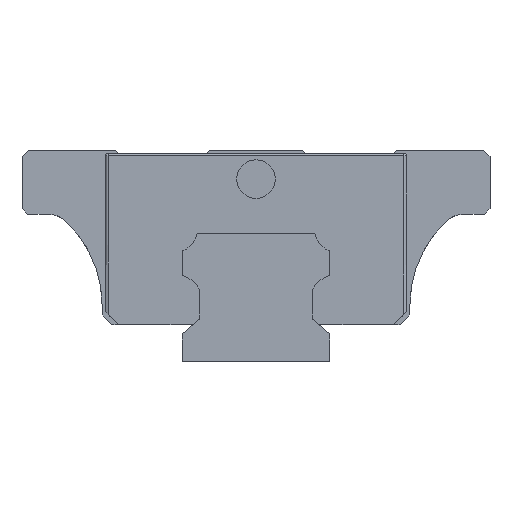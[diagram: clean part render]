
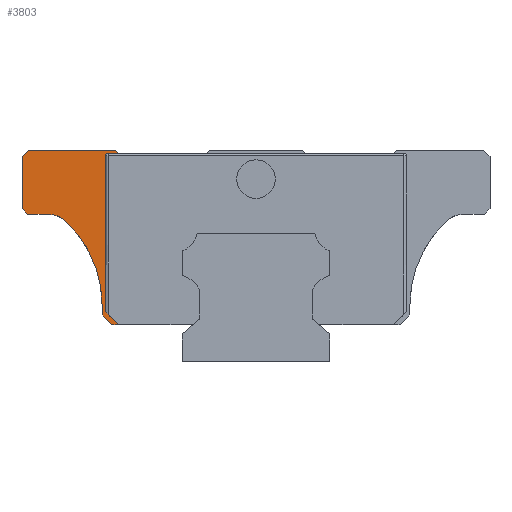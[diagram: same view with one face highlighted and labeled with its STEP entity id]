
A CAD part, left-side view. The second image highlights one B-rep face of the part: STEP entity #3803.
In plain terms, the highlighted planar face has unit normal (-1, 0, 0).
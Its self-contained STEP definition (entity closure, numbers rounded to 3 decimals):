
#8 = DIRECTION ( 'NONE',  ( 1., 0., 0. ) ) ;
#16 = ORIENTED_EDGE ( 'NONE', *, *, #7281, .T. ) ;
#78 = ORIENTED_EDGE ( 'NONE', *, *, #4123, .F. ) ;
#106 = DIRECTION ( 'NONE',  ( 0., 0.643, 0.766 ) ) ;
#324 = CARTESIAN_POINT ( 'NONE',  ( -29.5, -24.589, 32.5 ) ) ;
#351 = CARTESIAN_POINT ( 'NONE',  ( -29.5, 21.48, 32.5 ) ) ;
#412 = ORIENTED_EDGE ( 'NONE', *, *, #770, .T. ) ;
#445 = EDGE_CURVE ( 'NONE', #987, #7017, #715, .T. ) ;
#456 = AXIS2_PLACEMENT_3D ( 'NONE', #7030, #1487, #2773 ) ;
#570 = ORIENTED_EDGE ( 'NONE', *, *, #4826, .T. ) ;
#715 = LINE ( 'NONE', #3056, #4259 ) ;
#770 = EDGE_CURVE ( 'NONE', #5555, #987, #2677, .T. ) ;
#830 = VERTEX_POINT ( 'NONE', #7322 ) ;
#942 = VERTEX_POINT ( 'NONE', #4283 ) ;
#982 = CARTESIAN_POINT ( 'NONE',  ( -29.5, 29.671, 21.914 ) ) ;
#987 = VERTEX_POINT ( 'NONE', #2875 ) ;
#1003 = EDGE_CURVE ( 'NONE', #1500, #830, #3946, .T. ) ;
#1027 = EDGE_CURVE ( 'NONE', #2249, #5762, #3262, .T. ) ;
#1166 = EDGE_CURVE ( 'NONE', #2193, #830, #6650, .T. ) ;
#1219 = AXIS2_PLACEMENT_3D ( 'NONE', #3531, #2408, #6737 ) ;
#1331 = VERTEX_POINT ( 'NONE', #7523 ) ;
#1487 = DIRECTION ( 'NONE',  ( 1., 0., 0. ) ) ;
#1500 = VERTEX_POINT ( 'NONE', #351 ) ;
#1528 = DIRECTION ( 'NONE',  ( 0., 1., 0. ) ) ;
#1578 = CARTESIAN_POINT ( 'NONE',  ( -29.5, 32.41, 23. ) ) ;
#1645 = VERTEX_POINT ( 'NONE', #4570 ) ;
#1755 = VECTOR ( 'NONE', #106, 1000. ) ;
#1797 = DIRECTION ( 'NONE',  ( 0., 0., 1. ) ) ;
#1821 = EDGE_CURVE ( 'NONE', #2802, #5555, #2484, .T. ) ;
#1913 = CARTESIAN_POINT ( 'NONE',  ( -29.5, -10.009, 5.8 ) ) ;
#1916 = LINE ( 'NONE', #3770, #5082 ) ;
#1945 = DIRECTION ( 'NONE',  ( 0., -0.707, -0.707 ) ) ;
#2003 = ORIENTED_EDGE ( 'NONE', *, *, #4714, .T. ) ;
#2008 = CARTESIAN_POINT ( 'NONE',  ( -29.5, 21.9, 33. ) ) ;
#2017 = CIRCLE ( 'NONE', #5403, 4. ) ;
#2074 = EDGE_CURVE ( 'NONE', #7017, #2341, #7520, .T. ) ;
#2146 = VECTOR ( 'NONE', #6974, 1000. ) ;
#2193 = VERTEX_POINT ( 'NONE', #7775 ) ;
#2249 = VERTEX_POINT ( 'NONE', #982 ) ;
#2286 = VECTOR ( 'NONE', #1945, 1000. ) ;
#2341 = VERTEX_POINT ( 'NONE', #6476 ) ;
#2347 = CARTESIAN_POINT ( 'NONE',  ( -29.5, 24., 8.8 ) ) ;
#2356 = DIRECTION ( 'NONE',  ( 0., -0.707, -0.707 ) ) ;
#2408 = DIRECTION ( 'NONE',  ( 1., 0., 0. ) ) ;
#2455 = DIRECTION ( 'NONE',  ( 0., 0., 1. ) ) ;
#2484 = LINE ( 'NONE', #2008, #7724 ) ;
#2529 = VECTOR ( 'NONE', #5908, 1000. ) ;
#2581 = CARTESIAN_POINT ( 'NONE',  ( -29.5, 21.9, 33. ) ) ;
#2677 = LINE ( 'NONE', #5290, #6530 ) ;
#2773 = DIRECTION ( 'NONE',  ( 0., 0., 1. ) ) ;
#2802 = VERTEX_POINT ( 'NONE', #2581 ) ;
#2843 = LINE ( 'NONE', #2959, #5588 ) ;
#2865 = AXIS2_PLACEMENT_3D ( 'NONE', #1913, #6256, #1797 ) ;
#2875 = CARTESIAN_POINT ( 'NONE',  ( -29.5, 36.5, 32.05 ) ) ;
#2959 = CARTESIAN_POINT ( 'NONE',  ( -29.5, 23.449, 7.8 ) ) ;
#3047 = CARTESIAN_POINT ( 'NONE',  ( -29.5, 22.5, 5.8 ) ) ;
#3056 = CARTESIAN_POINT ( 'NONE',  ( -29.5, 36.5, 33. ) ) ;
#3074 = EDGE_CURVE ( 'NONE', #2341, #6472, #1916, .T. ) ;
#3075 = LINE ( 'NONE', #4505, #1755 ) ;
#3203 = DIRECTION ( 'NONE',  ( 0., 1., 0. ) ) ;
#3225 = CARTESIAN_POINT ( 'NONE',  ( -29.5, 24., 7.3 ) ) ;
#3262 = CIRCLE ( 'NONE', #456, 18. ) ;
#3283 = CARTESIAN_POINT ( 'NONE',  ( -29.5, 35.55, 33. ) ) ;
#3351 = LINE ( 'NONE', #5721, #2146 ) ;
#3525 = EDGE_CURVE ( 'NONE', #2193, #1645, #6508, .T. ) ;
#3531 = CARTESIAN_POINT ( 'NONE',  ( -29.5, 23.084, 32.135 ) ) ;
#3676 = ORIENTED_EDGE ( 'NONE', *, *, #445, .T. ) ;
#3725 = CARTESIAN_POINT ( 'NONE',  ( -29.5, 36.5, 23.9 ) ) ;
#3770 = CARTESIAN_POINT ( 'NONE',  ( -29.5, 35.6, 23. ) ) ;
#3774 = VERTEX_POINT ( 'NONE', #3047 ) ;
#3803 = ADVANCED_FACE ( 'NONE', ( #5653 ), #4385, .T. ) ;
#3847 = DIRECTION ( 'NONE',  ( 0., -0.707, -0.707 ) ) ;
#3946 = LINE ( 'NONE', #324, #5107 ) ;
#4093 = ORIENTED_EDGE ( 'NONE', *, *, #3525, .F. ) ;
#4123 = EDGE_CURVE ( 'NONE', #1645, #942, #2843, .T. ) ;
#4259 = VECTOR ( 'NONE', #5020, 1000. ) ;
#4283 = CARTESIAN_POINT ( 'NONE',  ( -29.5, 21.449, 5.8 ) ) ;
#4382 = EDGE_CURVE ( 'NONE', #3774, #942, #3351, .T. ) ;
#4385 = PLANE ( 'NONE',  #2865 ) ;
#4483 = CARTESIAN_POINT ( 'NONE',  ( -29.5, 36.5, 23.9 ) ) ;
#4505 = CARTESIAN_POINT ( 'NONE',  ( -29.5, 21.376, 32.375 ) ) ;
#4570 = CARTESIAN_POINT ( 'NONE',  ( -29.5, 23.449, 7.8 ) ) ;
#4674 = ORIENTED_EDGE ( 'NONE', *, *, #1166, .T. ) ;
#4689 = EDGE_CURVE ( 'NONE', #6472, #2249, #2017, .T. ) ;
#4714 = EDGE_CURVE ( 'NONE', #1500, #2802, #3075, .T. ) ;
#4809 = LINE ( 'NONE', #5431, #5236 ) ;
#4814 = ORIENTED_EDGE ( 'NONE', *, *, #1003, .F. ) ;
#4826 = EDGE_CURVE ( 'NONE', #1331, #3774, #5041, .T. ) ;
#5020 = DIRECTION ( 'NONE',  ( 0., 0., -1. ) ) ;
#5041 = LINE ( 'NONE', #3225, #2286 ) ;
#5082 = VECTOR ( 'NONE', #5540, 1000. ) ;
#5107 = VECTOR ( 'NONE', #1528, 1000. ) ;
#5229 = CARTESIAN_POINT ( 'NONE',  ( -29.5, 23.449, 31.75 ) ) ;
#5236 = VECTOR ( 'NONE', #6741, 1000. ) ;
#5290 = CARTESIAN_POINT ( 'NONE',  ( -29.5, 35.55, 33. ) ) ;
#5403 = AXIS2_PLACEMENT_3D ( 'NONE', #6718, #8, #2455 ) ;
#5431 = CARTESIAN_POINT ( 'NONE',  ( -29.5, 24., 8.8 ) ) ;
#5540 = DIRECTION ( 'NONE',  ( 0., -1., 0. ) ) ;
#5555 = VERTEX_POINT ( 'NONE', #3283 ) ;
#5588 = VECTOR ( 'NONE', #2356, 1000. ) ;
#5653 = FACE_OUTER_BOUND ( 'NONE', #7367, .T. ) ;
#5721 = CARTESIAN_POINT ( 'NONE',  ( -29.5, 24.236, 5.8 ) ) ;
#5762 = VERTEX_POINT ( 'NONE', #2347 ) ;
#5808 = VECTOR ( 'NONE', #3847, 1000. ) ;
#5908 = DIRECTION ( 'NONE',  ( 0., 0., -1. ) ) ;
#6256 = DIRECTION ( 'NONE',  ( -1., 0., 0. ) ) ;
#6269 = ORIENTED_EDGE ( 'NONE', *, *, #3074, .T. ) ;
#6289 = ORIENTED_EDGE ( 'NONE', *, *, #1821, .T. ) ;
#6472 = VERTEX_POINT ( 'NONE', #1578 ) ;
#6476 = CARTESIAN_POINT ( 'NONE',  ( -29.5, 35.6, 23. ) ) ;
#6508 = LINE ( 'NONE', #5229, #2529 ) ;
#6530 = VECTOR ( 'NONE', #7732, 1000. ) ;
#6650 = CIRCLE ( 'NONE', #1219, 0.365 ) ;
#6718 = CARTESIAN_POINT ( 'NONE',  ( -29.5, 32.41, 19. ) ) ;
#6737 = DIRECTION ( 'NONE',  ( 0., 0., 1. ) ) ;
#6741 = DIRECTION ( 'NONE',  ( 0., 0., -1. ) ) ;
#6974 = DIRECTION ( 'NONE',  ( 0., -1., 0. ) ) ;
#7017 = VERTEX_POINT ( 'NONE', #4483 ) ;
#7030 = CARTESIAN_POINT ( 'NONE',  ( -29.5, 42., 8.8 ) ) ;
#7255 = ORIENTED_EDGE ( 'NONE', *, *, #1027, .T. ) ;
#7281 = EDGE_CURVE ( 'NONE', #5762, #1331, #4809, .T. ) ;
#7286 = ORIENTED_EDGE ( 'NONE', *, *, #2074, .T. ) ;
#7299 = ORIENTED_EDGE ( 'NONE', *, *, #4382, .T. ) ;
#7322 = CARTESIAN_POINT ( 'NONE',  ( -29.5, 23.084, 32.5 ) ) ;
#7367 = EDGE_LOOP ( 'NONE', ( #7286, #6269, #7816, #7255, #16, #570, #7299, #78, #4093, #4674, #4814, #2003, #6289, #412, #3676 ) ) ;
#7520 = LINE ( 'NONE', #3725, #5808 ) ;
#7523 = CARTESIAN_POINT ( 'NONE',  ( -29.5, 24., 7.3 ) ) ;
#7724 = VECTOR ( 'NONE', #3203, 1000. ) ;
#7732 = DIRECTION ( 'NONE',  ( 0., 0.707, -0.707 ) ) ;
#7775 = CARTESIAN_POINT ( 'NONE',  ( -29.5, 23.449, 32.135 ) ) ;
#7816 = ORIENTED_EDGE ( 'NONE', *, *, #4689, .T. ) ;
